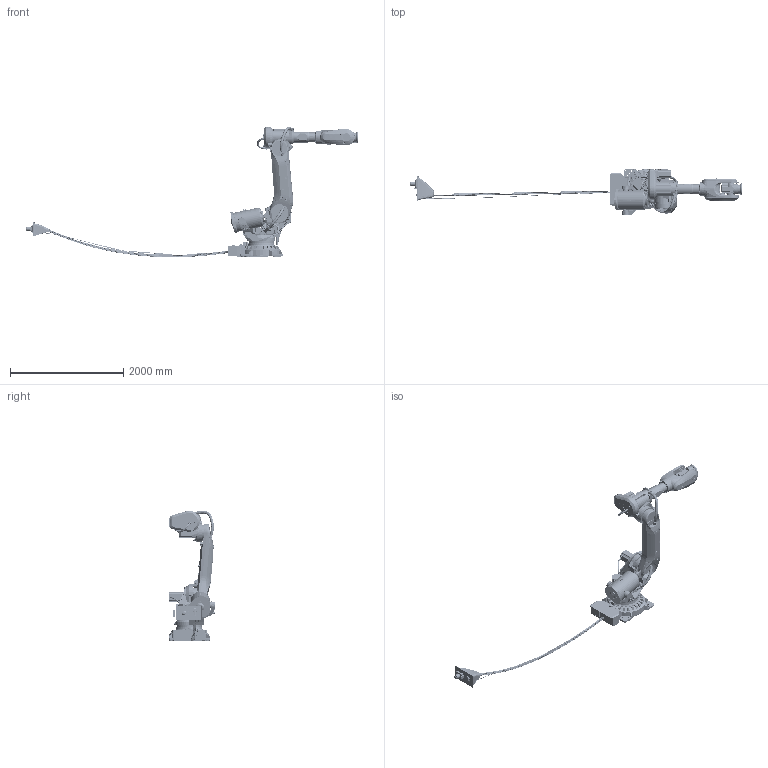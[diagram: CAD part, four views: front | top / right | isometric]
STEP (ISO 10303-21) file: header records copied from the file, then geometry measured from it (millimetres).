
FILE_DESCRIPTION(/* description */ (''),/* implementation_level */ '2;1');
FILE_NAME(/* name */ 'E:\组装完成的图纸\IRB 6790\IRB 6790-235-2.65\IRB 6790-235-2.65.stp',/* time_stamp */ '2023-10-31T15:39:57+08:00',/* author */ ('Administrator'),/* organization */ (''),/* preprocessor_version */ 'ST-DEVELOPER v16.5',/* originating_system */ 'Autodesk Inventor 2017',/* authorisation */ '');
FILE_SCHEMA (('AUTOMOTIVE_DESIGN { 1 0 10303 214 3 1 1 }'));
Products named in the file (17): 部件2; IRB6700'6790_235-265_IRC5_rev00_LOGO1_CAD; IRB6700'6790_235-265_IRC5_rev00_LOGO2_CAD; IRB6700'6790_235-265_IRC5_rev00_LOGO3_CAD; IRB6700'6790_235-265_IRC5_rev01_BASE_CAD; IRB6700'6790_235-265_IRC5_rev01_LINK02m_CABLE; IRB6700'6790_235-265_IRC5_rev02_LINK01m_CABLE; IRB6700'6790_235-265_IRC5_rev02_LINK03m_CABLE; IRB6700'6790_235-265_IRC5_rev02_LINK04_CAD; IRB6700'6790_235-265_IRC5_rev02_LINK06_CAD; IRB6700'6790_235-265_IRC5_rev03_LINK02_CAD; IRB6700'6790_235-265_IRC5_rev03_ROD_CAD; IRB6700'6790_235-265_IRC5_rev04_LINK05_CAD; IRB6700'6790_235-265_IRC5_rev05_LINK03_CAD; IRB6700'6790_235-265_IRC5_rev06_CYLINDER_CAD; IRB6700'6790_235-265_IRC5_rev06_LINK01_CAD; IRB6790_IRC5_rev_00_harness
Assembly tree (1 placements, depth 2):
  部件2
    IRB6790_IRC5_rev_00_harness
  IRB6700'6790_235-265_IRC5_rev00_LOGO1_CAD
  IRB6700'6790_235-265_IRC5_rev00_LOGO2_CAD
  IRB6700'6790_235-265_IRC5_rev00_LOGO3_CAD
  IRB6700'6790_235-265_IRC5_rev01_BASE_CAD
Bounding box: 5851.16 x 816 x 2300.25 mm (x, y, z)
Volume: 443023422.3 mm3; surface area: 14662360.9 mm2
Topology: 18 solids, 20 shells, 6952 faces, 18300 edges, 11751 vertices
Faces by surface type: plane 3829, cylinder 1590, cone 678, bspline 651, torus 158, sphere 46
Full cylindrical faces by diameter (mm): 3 x4, 5 x23, 5.5 x3, 6 x31, 6.4 x1, 6.5 x6, 6.6 x9, 6.8 x12, 6.9 x1, 7 x16, 7.1 x2, 7.4 x2, 7.5 x8, 8 x5, 8.1 x2, 8.3 x4, 8.5 x4, 8.6 x4, 8.8 x4, 9 x5, 10 x5, 10.08 x2, 10.2 x37, 11.05 x4, 11.5 x4, 11.8 x8, 12 x9, 12.5 x6, 13 x3, 13.8 x3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
Entity records: 335743 total; most frequent: CARTESIAN_POINT 169321, ORIENTED_EDGE 34622, DIRECTION 32295, EDGE_CURVE 17311, VERTEX_POINT 11487, AXIS2_PLACEMENT_3D 11222, LINE 9851, VECTOR 9851
